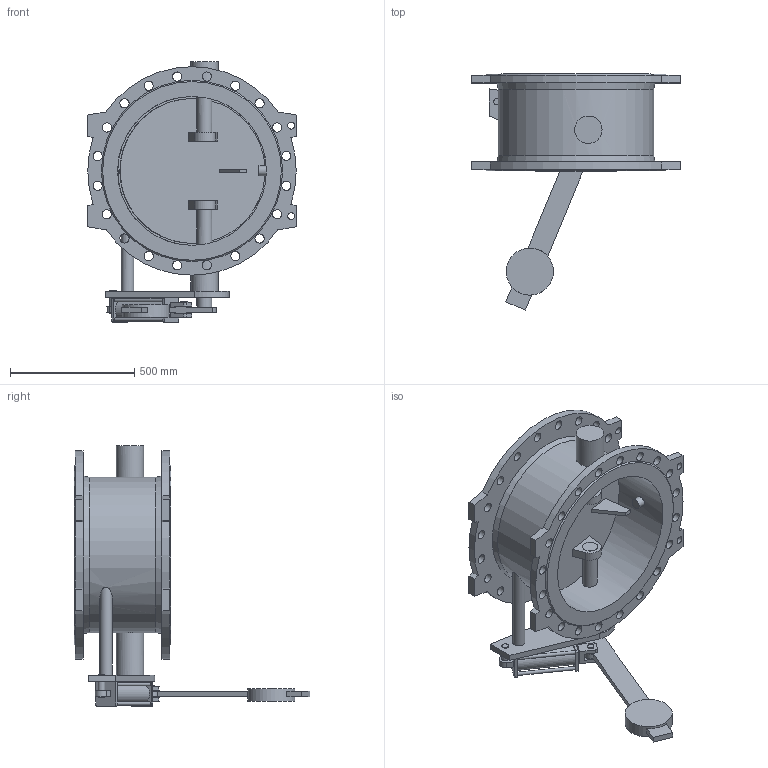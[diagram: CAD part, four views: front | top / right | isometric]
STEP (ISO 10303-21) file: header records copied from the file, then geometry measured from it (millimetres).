
FILE_DESCRIPTION(('STEP AP203'), '1');
FILE_NAME('Êëàïàí 015F.PV DN600 PN16 ñ ïðîòèâîâåñîì ñ äåìïôåðîì', '', ('UNSPECIFIED'), ('UNSPECIFIED'), 'ASCON STEP Converter 1.6', 'ASCON Math Kernel', '');
FILE_SCHEMA(('CONFIG_CONTROL_DESIGN'));
Length unit declared in the file: millimetre
Bounding box: 840 x 950 x 1050 mm (x, y, z)
Volume: 40614093.4 mm3; surface area: 4166539.2 mm2
Topology: 1 solids, 1 shells, 207 faces, 526 edges, 349 vertices
Faces by surface type: plane 100, cylinder 98, cone 4, extrusion 2, torus 2, bspline 1
Full cylindrical faces by diameter (mm): 14 x5, 18 x2, 26 x7, 28 x4, 35 x1, 37 x40, 40 x1, 50 x1, 60 x3, 62 x2, 80 x1, 110 x2, 190 x1, 600 x1, 626 x1
Entity records: 9850 total; most frequent: CARTESIAN_POINT 3116, DIRECTION 1026, ORIENTED_EDGE 880, EDGE_CURVE 440, EDGE_LOOP 430, AXIS2_PLACEMENT_3D 405, VERTEX_POINT 348, FACE_BOUND 273
